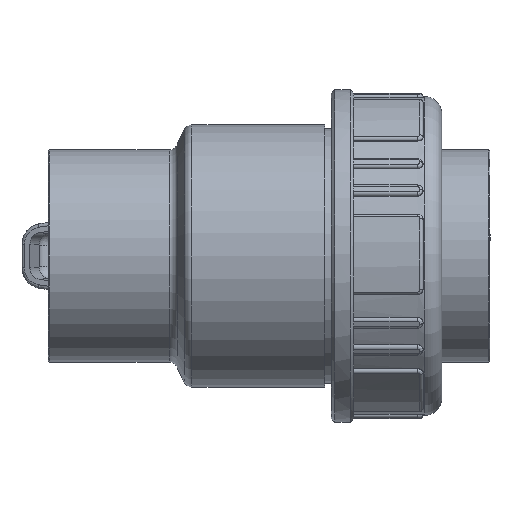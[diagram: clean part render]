
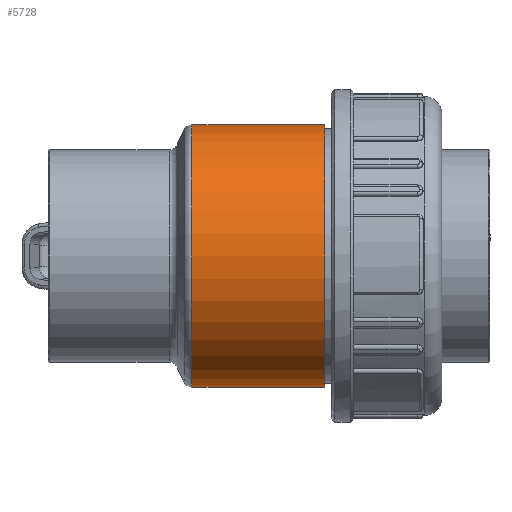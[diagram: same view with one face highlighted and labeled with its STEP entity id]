
A CAD part, left-side view. The second image highlights one B-rep face of the part: STEP entity #5728.
In plain terms, the highlighted cylindrical face has radius 38 mm (diameter 76 mm), a full revolution.
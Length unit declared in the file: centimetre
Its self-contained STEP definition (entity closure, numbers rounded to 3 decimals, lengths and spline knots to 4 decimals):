
#192=FACE_BOUND('',#1082,.T.);
#193=FACE_BOUND('',#1083,.T.);
#282=CIRCLE('',#6157,3.8);
#285=CIRCLE('',#6162,3.8);
#564=CYLINDRICAL_SURFACE('',#6161,3.8);
#722=FACE_OUTER_BOUND('',#1081,.T.);
#1081=EDGE_LOOP('',(#3916));
#1082=EDGE_LOOP('',(#3917));
#1083=EDGE_LOOP('',(#3918));
#2047=B_SPLINE_CURVE_WITH_KNOTS('',3,(#9293,#9294,#9295,#9296,#9297,#9298,
#9299,#9300,#9301,#9302,#9303,#9304,#9305,#9306,#9307,#9308,#9309,#9310),
 .UNSPECIFIED.,.T.,.F.,(4,1,1,1,1,1,1,1,1,1,1,1,1,1,1,4),(-9.7772,
-9.0788,-8.3804,-7.6821,-6.9837,
-6.2853,-5.587,-5.1214,-4.6558,
-4.1902,-3.7246,-2.7935,-2.0951,
-1.3967,-0.6984,0.),
 .UNSPECIFIED.);
#2325=VERTEX_POINT('',#9282);
#2328=VERTEX_POINT('',#9290);
#2329=VERTEX_POINT('',#9292);
#2907=EDGE_CURVE('',#2325,#2325,#282,.T.);
#2910=EDGE_CURVE('',#2328,#2328,#285,.T.);
#2911=EDGE_CURVE('',#2329,#2329,#2047,.T.);
#3916=ORIENTED_EDGE('',*,*,#2910,.T.);
#3917=ORIENTED_EDGE('',*,*,#2911,.F.);
#3918=ORIENTED_EDGE('',*,*,#2907,.F.);
#5728=ADVANCED_FACE('',(#722,#192,#193),#564,.T.);
#6157=AXIS2_PLACEMENT_3D('',#9283,#6976,#6977);
#6161=AXIS2_PLACEMENT_3D('',#9289,#6984,#6985);
#6162=AXIS2_PLACEMENT_3D('',#9291,#6986,#6987);
#6976=DIRECTION('center_axis',(0.,1.,0.));
#6977=DIRECTION('ref_axis',(1.,0.,0.));
#6984=DIRECTION('center_axis',(0.,1.,0.));
#6985=DIRECTION('ref_axis',(-1.,0.,0.));
#6986=DIRECTION('center_axis',(0.,1.,0.));
#6987=DIRECTION('ref_axis',(-1.,0.,0.));
#9282=CARTESIAN_POINT('',(-3.8,2.1411,0.));
#9283=CARTESIAN_POINT('Origin',(0.,2.1411,
0.));
#9289=CARTESIAN_POINT('Origin',(0.,-0.65,
0.));
#9290=CARTESIAN_POINT('',(3.8,-1.71,0.));
#9291=CARTESIAN_POINT('Origin',(0.,-1.71,0.));
#9292=CARTESIAN_POINT('',(3.4387,0.,1.6172));
#9293=CARTESIAN_POINT('Ctrl Pts',(3.4384,0.,
1.6174));
#9294=CARTESIAN_POINT('Ctrl Pts',(3.4384,-0.2464,1.6174));
#9295=CARTESIAN_POINT('Ctrl Pts',(3.4956,-0.7391,1.5026));
#9296=CARTESIAN_POINT('Ctrl Pts',(3.6697,-1.3132,1.0454));
#9297=CARTESIAN_POINT('Ctrl Pts',(3.8052,-1.6435,0.3793));
#9298=CARTESIAN_POINT('Ctrl Pts',(3.8055,-1.6433,-0.3794));
#9299=CARTESIAN_POINT('Ctrl Pts',(3.6694,-1.3136,-1.0453));
#9300=CARTESIAN_POINT('Ctrl Pts',(3.5154,-0.8021,-1.4516));
#9301=CARTESIAN_POINT('Ctrl Pts',(3.4359,-0.2504,-1.6232));
#9302=CARTESIAN_POINT('Ctrl Pts',(3.4359,0.2504,-1.6235));
#9303=CARTESIAN_POINT('Ctrl Pts',(3.5039,0.7232,-1.4757));
#9304=CARTESIAN_POINT('Ctrl Pts',(3.646,1.2587,-1.1129));
#9305=CARTESIAN_POINT('Ctrl Pts',(3.8059,1.6433,-0.4643));
#9306=CARTESIAN_POINT('Ctrl Pts',(3.8051,1.6436,0.3796));
#9307=CARTESIAN_POINT('Ctrl Pts',(3.6697,1.313,1.0451));
#9308=CARTESIAN_POINT('Ctrl Pts',(3.4956,0.7391,1.5027));
#9309=CARTESIAN_POINT('Ctrl Pts',(3.4384,0.2464,1.6174));
#9310=CARTESIAN_POINT('Ctrl Pts',(3.4384,0.,
1.6174));
